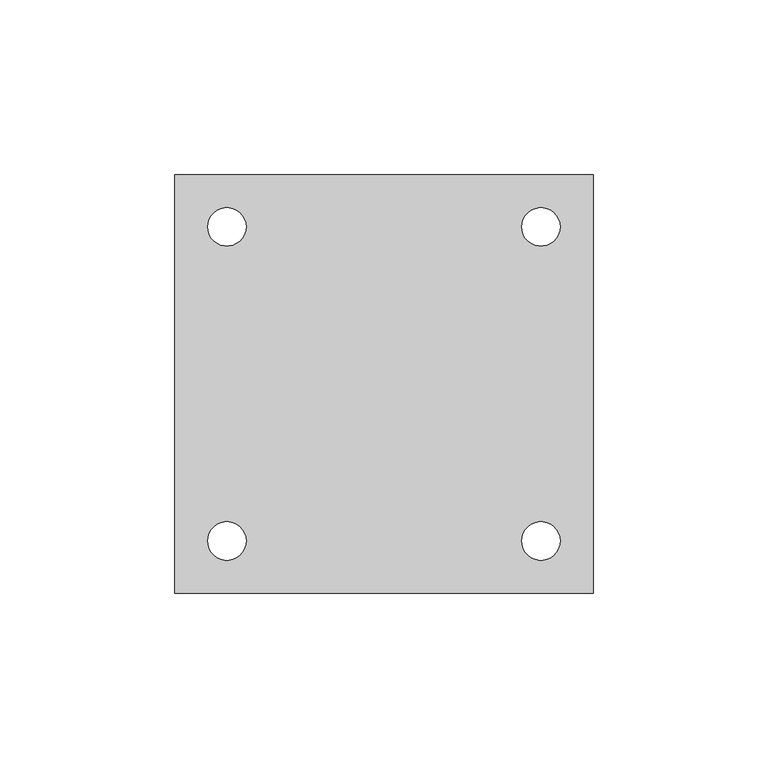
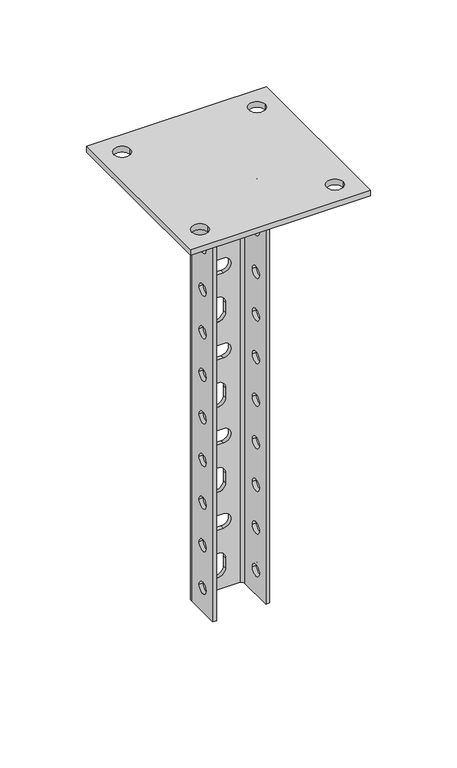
"""IFC4 building model written with IfcOpenShell, lengths in millimetres: proxy geometry, КМ Профиль_Универсальная потолочная стойка усиленная UPTU : UPTU300."""

from ifc_helpers import new_model, si_unit, point, frame, frame_2d, origin, place, context, project, spatial, polyline, circle_curve, trimmed, segment, composite_curve, outline, extrude, source, transform, mapped, element, save
from ifc_brep_helpers import plane_surface, cylinder_surface, revolved_surface, advanced_brep


def generic_models_0390d1ad(model_context):
    return source(origin(), model_context, "Body", "SolidModel", [
        advanced_brep(
        [(19.0, -14.5, -4.0), (19.0, 10.0, -4.0), (14.5, 14.5, -4.0), (-14.5, 14.5, -4.0), (-19.0, 10.0, -4.0), (-19.0, -14.5, -4.0), (-16.5, -14.5, -4.0), (-16.5, 10.0, -4.0), (-14.5, 12.0, -4.0), (14.5, 12.0, -4.0), (16.5, 10.0, -4.0), (16.5, -14.5, -4.0), (19.0, 10.0, -304.0), (19.0, -14.5, -304.0), (16.5, -14.5, -304.0), (16.5, 10.0, -304.0), (14.5, 12.0, -304.0), (-14.5, 12.0, -304.0), (-16.5, 10.0, -304.0), (-16.5, -14.5, -304.0), (-19.0, -14.5, -304.0), (-19.0, 10.0, -304.0), (-14.5, 14.5, -304.0), (14.5, 14.5, -304.0), (19.0, -7.0, -47.0), (19.0, 1.0, -47.0), (19.0, -7.0, -77.0), (19.0, 1.0, -77.0), (19.0, -7.0, -107.0), (19.0, 1.0, -107.0), (19.0, -7.0, -137.0), (19.0, 1.0, -137.0), (19.0, -7.0, -167.0), (19.0, 1.0, -167.0), (19.0, -7.0, -197.0), (19.0, 1.0, -197.0), (19.0, -7.0, -227.0), (19.0, 1.0, -227.0), (19.0, -7.0, -257.0), (19.0, 1.0, -257.0), (19.0, -7.0, -287.0), (19.0, 1.0, -287.0), (19.0, -7.0, -17.0), (19.0, 1.0, -17.0), (3.5, 14.5, -132.0), (-3.5, 14.5, -132.0), (-3.5, 14.5, -142.0), (3.5, 14.5, -142.0), (3.5, 14.5, -192.0), (-3.5, 14.5, -192.0), (-3.5, 14.5, -202.0), (3.5, 14.5, -202.0), (3.5, 14.5, -72.0), (-3.5, 14.5, -72.0), (-3.5, 14.5, -82.0), (3.5, 14.5, -82.0), (-5.0, 14.5, -103.5), (-5.0, 14.5, -110.5), (5.0, 14.5, -110.5), (5.0, 14.5, -103.5), (-5.0, 14.5, -163.5), (-5.0, 14.5, -170.5), (5.0, 14.5, -170.5), (5.0, 14.5, -163.5), (-5.0, 14.5, -223.5), (-5.0, 14.5, -230.5), (5.0, 14.5, -230.5), (5.0, 14.5, -223.5), (3.5, 14.5, -252.0), (-3.5, 14.5, -252.0), (-3.5, 14.5, -262.0), (3.5, 14.5, -262.0), (-5.0, 14.5, -283.5), (-5.0, 14.5, -290.5), (5.0, 14.5, -290.5), (5.0, 14.5, -283.5), (-5.0, 14.5, -43.5), (-5.0, 14.5, -50.5), (5.0, 14.5, -50.5), (5.0, 14.5, -43.5), (3.5, 14.5, -12.0), (-3.5, 14.5, -12.0), (-3.5, 14.5, -22.0), (3.5, 14.5, -22.0), (-19.0, -7.0, -17.0), (-19.0, 1.0, -17.0), (-19.0, -7.0, -47.0), (-19.0, 1.0, -47.0), (-19.0, -7.0, -77.0), (-19.0, 1.0, -77.0), (-19.0, -7.0, -107.0), (-19.0, 1.0, -107.0), (-19.0, -7.0, -137.0), (-19.0, 1.0, -137.0), (-19.0, -7.0, -167.0), (-19.0, 1.0, -167.0), (-19.0, -7.0, -197.0), (-19.0, 1.0, -197.0), (-19.0, -7.0, -227.0), (-19.0, 1.0, -227.0), (-19.0, -7.0, -257.0), (-19.0, 1.0, -257.0), (-19.0, -7.0, -287.0), (-19.0, 1.0, -287.0), (-16.5, 1.0, -17.0), (-16.5, -7.0, -17.0), (-16.5, 1.0, -47.0), (-16.5, -7.0, -47.0), (-16.5, 1.0, -77.0), (-16.5, -7.0, -77.0), (-16.5, 1.0, -107.0), (-16.5, -7.0, -107.0), (-16.5, 1.0, -137.0), (-16.5, -7.0, -137.0), (-16.5, 1.0, -167.0), (-16.5, -7.0, -167.0), (-16.5, 1.0, -197.0), (-16.5, -7.0, -197.0), (-16.5, 1.0, -227.0), (-16.5, -7.0, -227.0), (-16.5, 1.0, -257.0), (-16.5, -7.0, -257.0), (-16.5, 1.0, -287.0), (-16.5, -7.0, -287.0), (-3.5, 12.0, -132.0), (3.5, 12.0, -132.0), (3.5, 12.0, -142.0), (-3.5, 12.0, -142.0), (-3.5, 12.0, -192.0), (3.5, 12.0, -192.0), (3.5, 12.0, -202.0), (-3.5, 12.0, -202.0), (-3.5, 12.0, -72.0), (3.5, 12.0, -72.0), (3.5, 12.0, -82.0), (-3.5, 12.0, -82.0), (-5.0, 12.0, -110.5), (-5.0, 12.0, -103.5), (5.0, 12.0, -103.5), (5.0, 12.0, -110.5), (-5.0, 12.0, -170.5), (-5.0, 12.0, -163.5), (5.0, 12.0, -163.5), (5.0, 12.0, -170.5), (-5.0, 12.0, -230.5), (-5.0, 12.0, -223.5), (5.0, 12.0, -223.5), (5.0, 12.0, -230.5), (-3.5, 12.0, -252.0), (3.5, 12.0, -252.0), (3.5, 12.0, -262.0), (-3.5, 12.0, -262.0), (-5.0, 12.0, -290.5), (-5.0, 12.0, -283.5), (5.0, 12.0, -283.5), (5.0, 12.0, -290.5), (-5.0, 12.0, -50.5), (-5.0, 12.0, -43.5), (5.0, 12.0, -43.5), (5.0, 12.0, -50.5), (-3.5, 12.0, -12.0), (3.5, 12.0, -12.0), (3.5, 12.0, -22.0), (-3.5, 12.0, -22.0), (16.5, 1.0, -47.0), (16.5, -7.0, -47.0), (16.5, 1.0, -77.0), (16.5, -7.0, -77.0), (16.5, 1.0, -107.0), (16.5, -7.0, -107.0), (16.5, 1.0, -137.0), (16.5, -7.0, -137.0), (16.5, 1.0, -167.0), (16.5, -7.0, -167.0), (16.5, 1.0, -197.0), (16.5, -7.0, -197.0), (16.5, 1.0, -227.0), (16.5, -7.0, -227.0), (16.5, 1.0, -257.0), (16.5, -7.0, -257.0), (16.5, 1.0, -287.0), (16.5, -7.0, -287.0), (16.5, 1.0, -17.0), (16.5, -7.0, -17.0)],
        [
            (0, 1),
            (1, 2, circle_curve(frame((14.5, 10.0, -4.0), z_axis=(0.0, 0.0, 1.0), x_axis=(1.0, 0.0, 0.0)), 4.5)),
            (2, 3),
            (3, 4, circle_curve(frame((-14.5, 10.0, -4.0), z_axis=(0.0, 0.0, 1.0), x_axis=(1.0, 0.0, 0.0)), 4.5)),
            (4, 5),
            (5, 6),
            (6, 7),
            (7, 8, circle_curve(frame((-14.5, 10.0, -4.0), z_axis=(0.0, 0.0, -1.0), x_axis=(1.0, 0.0, 0.0)), 2.0)),
            (8, 9),
            (9, 10, circle_curve(frame((14.5, 10.0, -4.0), z_axis=(0.0, 0.0, -1.0), x_axis=(1.0, 0.0, 0.0)), 2.0)),
            (10, 11),
            (11, 0),
            (12, 13),
            (13, 14),
            (14, 15),
            (15, 16, circle_curve(frame((14.5, 10.0, -304.0), z_axis=(0.0, 0.0, 1.0), x_axis=(1.0, 0.0, 0.0)), 2.0)),
            (16, 17),
            (17, 18, circle_curve(frame((-14.5, 10.0, -304.0), z_axis=(0.0, 0.0, 1.0), x_axis=(1.0, 0.0, 0.0)), 2.0)),
            (18, 19),
            (19, 20),
            (20, 21),
            (21, 22, circle_curve(frame((-14.5, 10.0, -304.0), z_axis=(0.0, 0.0, -1.0), x_axis=(1.0, 0.0, 0.0)), 4.5)),
            (22, 23),
            (23, 12, circle_curve(frame((14.5, 10.0, -304.0), z_axis=(0.0, 0.0, -1.0), x_axis=(1.0, 0.0, 0.0)), 4.5)),
            (0, 13),
            (12, 1),
            (24, 25, circle_curve(frame((19.0, -3.0, -47.0), z_axis=(-1.0, 0.0, 0.0), x_axis=(0.0, -1.0, 0.0)), 4.0)),
            (25, 24, circle_curve(frame((19.0, -3.0, -47.0), z_axis=(-1.0, 0.0, 0.0), x_axis=(0.0, -1.0, 0.0)), 4.0)),
            (26, 27, circle_curve(frame((19.0, -3.0, -77.0), z_axis=(-1.0, 0.0, 0.0), x_axis=(0.0, -1.0, 0.0)), 4.0)),
            (27, 26, circle_curve(frame((19.0, -3.0, -77.0), z_axis=(-1.0, 0.0, 0.0), x_axis=(0.0, -1.0, 0.0)), 4.0)),
            (28, 29, circle_curve(frame((19.0, -3.0, -107.0), z_axis=(-1.0, 0.0, 0.0), x_axis=(0.0, -1.0, 0.0)), 4.0)),
            (29, 28, circle_curve(frame((19.0, -3.0, -107.0), z_axis=(-1.0, 0.0, 0.0), x_axis=(0.0, -1.0, 0.0)), 4.0)),
            (30, 31, circle_curve(frame((19.0, -3.0, -137.0), z_axis=(-1.0, 0.0, 0.0), x_axis=(0.0, -1.0, 0.0)), 4.0)),
            (31, 30, circle_curve(frame((19.0, -3.0, -137.0), z_axis=(-1.0, 0.0, 0.0), x_axis=(0.0, -1.0, 0.0)), 4.0)),
            (32, 33, circle_curve(frame((19.0, -3.0, -167.0), z_axis=(-1.0, 0.0, 0.0), x_axis=(0.0, -1.0, 0.0)), 4.0)),
            (33, 32, circle_curve(frame((19.0, -3.0, -167.0), z_axis=(-1.0, 0.0, 0.0), x_axis=(0.0, -1.0, 0.0)), 4.0)),
            (34, 35, circle_curve(frame((19.0, -3.0, -197.0), z_axis=(-1.0, 0.0, 0.0), x_axis=(0.0, -1.0, 0.0)), 4.0)),
            (35, 34, circle_curve(frame((19.0, -3.0, -197.0), z_axis=(-1.0, 0.0, 0.0), x_axis=(0.0, -1.0, 0.0)), 4.0)),
            (36, 37, circle_curve(frame((19.0, -3.0, -227.0), z_axis=(-1.0, 0.0, 0.0), x_axis=(0.0, -1.0, 0.0)), 4.0)),
            (37, 36, circle_curve(frame((19.0, -3.0, -227.0), z_axis=(-1.0, 0.0, 0.0), x_axis=(0.0, -1.0, 0.0)), 4.0)),
            (38, 39, circle_curve(frame((19.0, -3.0, -257.0), z_axis=(-1.0, 0.0, 0.0), x_axis=(0.0, -1.0, 0.0)), 4.0)),
            (39, 38, circle_curve(frame((19.0, -3.0, -257.0), z_axis=(-1.0, 0.0, 0.0), x_axis=(0.0, -1.0, 0.0)), 4.0)),
            (40, 41, circle_curve(frame((19.0, -3.0, -287.0), z_axis=(-1.0, 0.0, 0.0), x_axis=(0.0, -1.0, 0.0)), 4.0)),
            (41, 40, circle_curve(frame((19.0, -3.0, -287.0), z_axis=(-1.0, 0.0, 0.0), x_axis=(0.0, -1.0, 0.0)), 4.0)),
            (42, 43, circle_curve(frame((19.0, -3.0, -17.0), z_axis=(-1.0, 0.0, 0.0), x_axis=(0.0, -1.0, 0.0)), 4.0)),
            (43, 42, circle_curve(frame((19.0, -3.0, -17.0), z_axis=(-1.0, 0.0, 0.0), x_axis=(0.0, -1.0, 0.0)), 4.0)),
            (23, 2),
            (22, 3),
            (44, 45),
            (45, 46, circle_curve(frame((-3.5, 14.5, -137.0), z_axis=(0.0, -1.0, 0.0), x_axis=(-1.0, 0.0, 0.0)), 5.0)),
            (46, 47),
            (47, 44, circle_curve(frame((3.5, 14.5, -137.0), z_axis=(0.0, -1.0, 0.0), x_axis=(-1.0, 0.0, 0.0)), 5.0)),
            (48, 49),
            (49, 50, circle_curve(frame((-3.5, 14.5, -197.0), z_axis=(0.0, -1.0, 0.0), x_axis=(-1.0, 0.0, 0.0)), 5.0)),
            (50, 51),
            (51, 48, circle_curve(frame((3.5, 14.5, -197.0), z_axis=(0.0, -1.0, 0.0), x_axis=(-1.0, 0.0, 0.0)), 5.0)),
            (52, 53),
            (53, 54, circle_curve(frame((-3.5, 14.5, -77.0), z_axis=(0.0, -1.0, 0.0), x_axis=(-1.0, 0.0, 0.0)), 5.0)),
            (54, 55),
            (55, 52, circle_curve(frame((3.5, 14.5, -77.0), z_axis=(0.0, -1.0, 0.0), x_axis=(-1.0, 0.0, 0.0)), 5.0)),
            (56, 57),
            (57, 58, circle_curve(frame((0.0, 14.5, -110.5), z_axis=(0.0, -1.0, 0.0), x_axis=(0.0, 0.0, -1.0)), 5.0)),
            (58, 59),
            (59, 56, circle_curve(frame((0.0, 14.5, -103.5), z_axis=(0.0, -1.0, 0.0), x_axis=(0.0, 0.0, -1.0)), 5.0)),
            (60, 61),
            (61, 62, circle_curve(frame((0.0, 14.5, -170.5), z_axis=(0.0, -1.0, 0.0), x_axis=(0.0, 0.0, -1.0)), 5.0)),
            (62, 63),
            (63, 60, circle_curve(frame((0.0, 14.5, -163.5), z_axis=(0.0, -1.0, 0.0), x_axis=(0.0, 0.0, -1.0)), 5.0)),
            (64, 65),
            (65, 66, circle_curve(frame((0.0, 14.5, -230.5), z_axis=(0.0, -1.0, 0.0), x_axis=(0.0, 0.0, -1.0)), 5.0)),
            (66, 67),
            (67, 64, circle_curve(frame((0.0, 14.5, -223.5), z_axis=(0.0, -1.0, 0.0), x_axis=(0.0, 0.0, -1.0)), 5.0)),
            (68, 69),
            (69, 70, circle_curve(frame((-3.5, 14.5, -257.0), z_axis=(0.0, -1.0, 0.0), x_axis=(-1.0, 0.0, 0.0)), 5.0)),
            (70, 71),
            (71, 68, circle_curve(frame((3.5, 14.5, -257.0), z_axis=(0.0, -1.0, 0.0), x_axis=(-1.0, 0.0, 0.0)), 5.0)),
            (72, 73),
            (73, 74, circle_curve(frame((0.0, 14.5, -290.5), z_axis=(0.0, -1.0, 0.0), x_axis=(0.0, 0.0, -1.0)), 5.0)),
            (74, 75),
            (75, 72, circle_curve(frame((0.0, 14.5, -283.5), z_axis=(0.0, -1.0, 0.0), x_axis=(0.0, 0.0, -1.0)), 5.0)),
            (76, 77),
            (77, 78, circle_curve(frame((0.0, 14.5, -50.5), z_axis=(0.0, -1.0, 0.0), x_axis=(0.0, 0.0, -1.0)), 5.0)),
            (78, 79),
            (79, 76, circle_curve(frame((0.0, 14.5, -43.5), z_axis=(0.0, -1.0, 0.0), x_axis=(0.0, 0.0, -1.0)), 5.0)),
            (80, 81),
            (81, 82, circle_curve(frame((-3.5, 14.5, -17.0), z_axis=(0.0, -1.0, 0.0), x_axis=(-1.0, 0.0, 0.0)), 5.0)),
            (82, 83),
            (83, 80, circle_curve(frame((3.5, 14.5, -17.0), z_axis=(0.0, -1.0, 0.0), x_axis=(-1.0, 0.0, 0.0)), 5.0)),
            (21, 4),
            (20, 5),
            (84, 85, circle_curve(frame((-19.0, -3.0, -17.0), z_axis=(1.0, 0.0, 0.0), x_axis=(0.0, -1.0, 0.0)), 4.0)),
            (85, 84, circle_curve(frame((-19.0, -3.0, -17.0), z_axis=(1.0, 0.0, 0.0), x_axis=(0.0, -1.0, 0.0)), 4.0)),
            (86, 87, circle_curve(frame((-19.0, -3.0, -47.0), z_axis=(1.0, 0.0, 0.0), x_axis=(0.0, -1.0, 0.0)), 4.0)),
            (87, 86, circle_curve(frame((-19.0, -3.0, -47.0), z_axis=(1.0, 0.0, 0.0), x_axis=(0.0, -1.0, 0.0)), 4.0)),
            (88, 89, circle_curve(frame((-19.0, -3.0, -77.0), z_axis=(1.0, 0.0, 0.0), x_axis=(0.0, -1.0, 0.0)), 4.0)),
            (89, 88, circle_curve(frame((-19.0, -3.0, -77.0), z_axis=(1.0, 0.0, 0.0), x_axis=(0.0, -1.0, 0.0)), 4.0)),
            (90, 91, circle_curve(frame((-19.0, -3.0, -107.0), z_axis=(1.0, 0.0, 0.0), x_axis=(0.0, -1.0, 0.0)), 4.0)),
            (91, 90, circle_curve(frame((-19.0, -3.0, -107.0), z_axis=(1.0, 0.0, 0.0), x_axis=(0.0, -1.0, 0.0)), 4.0)),
            (92, 93, circle_curve(frame((-19.0, -3.0, -137.0), z_axis=(1.0, 0.0, 0.0), x_axis=(0.0, -1.0, 0.0)), 4.0)),
            (93, 92, circle_curve(frame((-19.0, -3.0, -137.0), z_axis=(1.0, 0.0, 0.0), x_axis=(0.0, -1.0, 0.0)), 4.0)),
            (94, 95, circle_curve(frame((-19.0, -3.0, -167.0), z_axis=(1.0, 0.0, 0.0), x_axis=(0.0, -1.0, 0.0)), 4.0)),
            (95, 94, circle_curve(frame((-19.0, -3.0, -167.0), z_axis=(1.0, 0.0, 0.0), x_axis=(0.0, -1.0, 0.0)), 4.0)),
            (96, 97, circle_curve(frame((-19.0, -3.0, -197.0), z_axis=(1.0, 0.0, 0.0), x_axis=(0.0, -1.0, 0.0)), 4.0)),
            (97, 96, circle_curve(frame((-19.0, -3.0, -197.0), z_axis=(1.0, 0.0, 0.0), x_axis=(0.0, -1.0, 0.0)), 4.0)),
            (98, 99, circle_curve(frame((-19.0, -3.0, -227.0), z_axis=(1.0, 0.0, 0.0), x_axis=(0.0, -1.0, 0.0)), 4.0)),
            (99, 98, circle_curve(frame((-19.0, -3.0, -227.0), z_axis=(1.0, 0.0, 0.0), x_axis=(0.0, -1.0, 0.0)), 4.0)),
            (100, 101, circle_curve(frame((-19.0, -3.0, -257.0), z_axis=(1.0, 0.0, 0.0), x_axis=(0.0, -1.0, 0.0)), 4.0)),
            (101, 100, circle_curve(frame((-19.0, -3.0, -257.0), z_axis=(1.0, 0.0, 0.0), x_axis=(0.0, -1.0, 0.0)), 4.0)),
            (102, 103, circle_curve(frame((-19.0, -3.0, -287.0), z_axis=(1.0, 0.0, 0.0), x_axis=(0.0, -1.0, 0.0)), 4.0)),
            (103, 102, circle_curve(frame((-19.0, -3.0, -287.0), z_axis=(1.0, 0.0, 0.0), x_axis=(0.0, -1.0, 0.0)), 4.0)),
            (19, 6),
            (18, 7),
            (104, 105, circle_curve(frame((-16.5, -3.0, -17.0), z_axis=(-1.0, 0.0, 0.0), x_axis=(0.0, -1.0, 0.0)), 4.0)),
            (105, 104, circle_curve(frame((-16.5, -3.0, -17.0), z_axis=(-1.0, 0.0, 0.0), x_axis=(0.0, -1.0, 0.0)), 4.0)),
            (106, 107, circle_curve(frame((-16.5, -3.0, -47.0), z_axis=(-1.0, 0.0, 0.0), x_axis=(0.0, -1.0, 0.0)), 4.0)),
            (107, 106, circle_curve(frame((-16.5, -3.0, -47.0), z_axis=(-1.0, 0.0, 0.0), x_axis=(0.0, -1.0, 0.0)), 4.0)),
            (108, 109, circle_curve(frame((-16.5, -3.0, -77.0), z_axis=(-1.0, 0.0, 0.0), x_axis=(0.0, -1.0, 0.0)), 4.0)),
            (109, 108, circle_curve(frame((-16.5, -3.0, -77.0), z_axis=(-1.0, 0.0, 0.0), x_axis=(0.0, -1.0, 0.0)), 4.0)),
            (110, 111, circle_curve(frame((-16.5, -3.0, -107.0), z_axis=(-1.0, 0.0, 0.0), x_axis=(0.0, -1.0, 0.0)), 4.0)),
            (111, 110, circle_curve(frame((-16.5, -3.0, -107.0), z_axis=(-1.0, 0.0, 0.0), x_axis=(0.0, -1.0, 0.0)), 4.0)),
            (112, 113, circle_curve(frame((-16.5, -3.0, -137.0), z_axis=(-1.0, 0.0, 0.0), x_axis=(0.0, -1.0, 0.0)), 4.0)),
            (113, 112, circle_curve(frame((-16.5, -3.0, -137.0), z_axis=(-1.0, 0.0, 0.0), x_axis=(0.0, -1.0, 0.0)), 4.0)),
            (114, 115, circle_curve(frame((-16.5, -3.0, -167.0), z_axis=(-1.0, 0.0, 0.0), x_axis=(0.0, -1.0, 0.0)), 4.0)),
            (115, 114, circle_curve(frame((-16.5, -3.0, -167.0), z_axis=(-1.0, 0.0, 0.0), x_axis=(0.0, -1.0, 0.0)), 4.0)),
            (116, 117, circle_curve(frame((-16.5, -3.0, -197.0), z_axis=(-1.0, 0.0, 0.0), x_axis=(0.0, -1.0, 0.0)), 4.0)),
            (117, 116, circle_curve(frame((-16.5, -3.0, -197.0), z_axis=(-1.0, 0.0, 0.0), x_axis=(0.0, -1.0, 0.0)), 4.0)),
            (118, 119, circle_curve(frame((-16.5, -3.0, -227.0), z_axis=(-1.0, 0.0, 0.0), x_axis=(0.0, -1.0, 0.0)), 4.0)),
            (119, 118, circle_curve(frame((-16.5, -3.0, -227.0), z_axis=(-1.0, 0.0, 0.0), x_axis=(0.0, -1.0, 0.0)), 4.0)),
            (120, 121, circle_curve(frame((-16.5, -3.0, -257.0), z_axis=(-1.0, 0.0, 0.0), x_axis=(0.0, -1.0, 0.0)), 4.0)),
            (121, 120, circle_curve(frame((-16.5, -3.0, -257.0), z_axis=(-1.0, 0.0, 0.0), x_axis=(0.0, -1.0, 0.0)), 4.0)),
            (122, 123, circle_curve(frame((-16.5, -3.0, -287.0), z_axis=(-1.0, 0.0, 0.0), x_axis=(0.0, -1.0, 0.0)), 4.0)),
            (123, 122, circle_curve(frame((-16.5, -3.0, -287.0), z_axis=(-1.0, 0.0, 0.0), x_axis=(0.0, -1.0, 0.0)), 4.0)),
            (17, 8),
            (16, 9),
            (124, 125),
            (125, 126, circle_curve(frame((3.5, 12.0, -137.0), z_axis=(0.0, 1.0, 0.0), x_axis=(-1.0, 0.0, 0.0)), 5.0)),
            (126, 127),
            (127, 124, circle_curve(frame((-3.5, 12.0, -137.0), z_axis=(0.0, 1.0, 0.0), x_axis=(-1.0, 0.0, 0.0)), 5.0)),
            (128, 129),
            (129, 130, circle_curve(frame((3.5, 12.0, -197.0), z_axis=(0.0, 1.0, 0.0), x_axis=(-1.0, 0.0, 0.0)), 5.0)),
            (130, 131),
            (131, 128, circle_curve(frame((-3.5, 12.0, -197.0), z_axis=(0.0, 1.0, 0.0), x_axis=(-1.0, 0.0, 0.0)), 5.0)),
            (132, 133),
            (133, 134, circle_curve(frame((3.5, 12.0, -77.0), z_axis=(0.0, 1.0, 0.0), x_axis=(-1.0, 0.0, 0.0)), 5.0)),
            (134, 135),
            (135, 132, circle_curve(frame((-3.5, 12.0, -77.0), z_axis=(0.0, 1.0, 0.0), x_axis=(-1.0, 0.0, 0.0)), 5.0)),
            (136, 137),
            (137, 138, circle_curve(frame((0.0, 12.0, -103.5), z_axis=(0.0, 1.0, 0.0), x_axis=(0.0, 0.0, -1.0)), 5.0)),
            (138, 139),
            (139, 136, circle_curve(frame((0.0, 12.0, -110.5), z_axis=(0.0, 1.0, 0.0), x_axis=(0.0, 0.0, -1.0)), 5.0)),
            (140, 141),
            (141, 142, circle_curve(frame((0.0, 12.0, -163.5), z_axis=(0.0, 1.0, 0.0), x_axis=(0.0, 0.0, -1.0)), 5.0)),
            (142, 143),
            (143, 140, circle_curve(frame((0.0, 12.0, -170.5), z_axis=(0.0, 1.0, 0.0), x_axis=(0.0, 0.0, -1.0)), 5.0)),
            (144, 145),
            (145, 146, circle_curve(frame((0.0, 12.0, -223.5), z_axis=(0.0, 1.0, 0.0), x_axis=(0.0, 0.0, -1.0)), 5.0)),
            (146, 147),
            (147, 144, circle_curve(frame((0.0, 12.0, -230.5), z_axis=(0.0, 1.0, 0.0), x_axis=(0.0, 0.0, -1.0)), 5.0)),
            (148, 149),
            (149, 150, circle_curve(frame((3.5, 12.0, -257.0), z_axis=(0.0, 1.0, 0.0), x_axis=(-1.0, 0.0, 0.0)), 5.0)),
            (150, 151),
            (151, 148, circle_curve(frame((-3.5, 12.0, -257.0), z_axis=(0.0, 1.0, 0.0), x_axis=(-1.0, 0.0, 0.0)), 5.0)),
            (152, 153),
            (153, 154, circle_curve(frame((0.0, 12.0, -283.5), z_axis=(0.0, 1.0, 0.0), x_axis=(0.0, 0.0, -1.0)), 5.0)),
            (154, 155),
            (155, 152, circle_curve(frame((0.0, 12.0, -290.5), z_axis=(0.0, 1.0, 0.0), x_axis=(0.0, 0.0, -1.0)), 5.0)),
            (156, 157),
            (157, 158, circle_curve(frame((0.0, 12.0, -43.5), z_axis=(0.0, 1.0, 0.0), x_axis=(0.0, 0.0, -1.0)), 5.0)),
            (158, 159),
            (159, 156, circle_curve(frame((0.0, 12.0, -50.5), z_axis=(0.0, 1.0, 0.0), x_axis=(0.0, 0.0, -1.0)), 5.0)),
            (160, 161),
            (161, 162, circle_curve(frame((3.5, 12.0, -17.0), z_axis=(0.0, 1.0, 0.0), x_axis=(-1.0, 0.0, 0.0)), 5.0)),
            (162, 163),
            (163, 160, circle_curve(frame((-3.5, 12.0, -17.0), z_axis=(0.0, 1.0, 0.0), x_axis=(-1.0, 0.0, 0.0)), 5.0)),
            (15, 10),
            (14, 11),
            (164, 165, circle_curve(frame((16.5, -3.0, -47.0), z_axis=(1.0, 0.0, 0.0), x_axis=(0.0, -1.0, 0.0)), 4.0)),
            (165, 164, circle_curve(frame((16.5, -3.0, -47.0), z_axis=(1.0, 0.0, 0.0), x_axis=(0.0, -1.0, 0.0)), 4.0)),
            (166, 167, circle_curve(frame((16.5, -3.0, -77.0), z_axis=(1.0, 0.0, 0.0), x_axis=(0.0, -1.0, 0.0)), 4.0)),
            (167, 166, circle_curve(frame((16.5, -3.0, -77.0), z_axis=(1.0, 0.0, 0.0), x_axis=(0.0, -1.0, 0.0)), 4.0)),
            (168, 169, circle_curve(frame((16.5, -3.0, -107.0), z_axis=(1.0, 0.0, 0.0), x_axis=(0.0, -1.0, 0.0)), 4.0)),
            (169, 168, circle_curve(frame((16.5, -3.0, -107.0), z_axis=(1.0, 0.0, 0.0), x_axis=(0.0, -1.0, 0.0)), 4.0)),
            (170, 171, circle_curve(frame((16.5, -3.0, -137.0), z_axis=(1.0, 0.0, 0.0), x_axis=(0.0, -1.0, 0.0)), 4.0)),
            (171, 170, circle_curve(frame((16.5, -3.0, -137.0), z_axis=(1.0, 0.0, 0.0), x_axis=(0.0, -1.0, 0.0)), 4.0)),
            (172, 173, circle_curve(frame((16.5, -3.0, -167.0), z_axis=(1.0, 0.0, 0.0), x_axis=(0.0, -1.0, 0.0)), 4.0)),
            (173, 172, circle_curve(frame((16.5, -3.0, -167.0), z_axis=(1.0, 0.0, 0.0), x_axis=(0.0, -1.0, 0.0)), 4.0)),
            (174, 175, circle_curve(frame((16.5, -3.0, -197.0), z_axis=(1.0, 0.0, 0.0), x_axis=(0.0, -1.0, 0.0)), 4.0)),
            (175, 174, circle_curve(frame((16.5, -3.0, -197.0), z_axis=(1.0, 0.0, 0.0), x_axis=(0.0, -1.0, 0.0)), 4.0)),
            (176, 177, circle_curve(frame((16.5, -3.0, -227.0), z_axis=(1.0, 0.0, 0.0), x_axis=(0.0, -1.0, 0.0)), 4.0)),
            (177, 176, circle_curve(frame((16.5, -3.0, -227.0), z_axis=(1.0, 0.0, 0.0), x_axis=(0.0, -1.0, 0.0)), 4.0)),
            (178, 179, circle_curve(frame((16.5, -3.0, -257.0), z_axis=(1.0, 0.0, 0.0), x_axis=(0.0, -1.0, 0.0)), 4.0)),
            (179, 178, circle_curve(frame((16.5, -3.0, -257.0), z_axis=(1.0, 0.0, 0.0), x_axis=(0.0, -1.0, 0.0)), 4.0)),
            (180, 181, circle_curve(frame((16.5, -3.0, -287.0), z_axis=(1.0, 0.0, 0.0), x_axis=(0.0, -1.0, 0.0)), 4.0)),
            (181, 180, circle_curve(frame((16.5, -3.0, -287.0), z_axis=(1.0, 0.0, 0.0), x_axis=(0.0, -1.0, 0.0)), 4.0)),
            (182, 183, circle_curve(frame((16.5, -3.0, -17.0), z_axis=(1.0, 0.0, 0.0), x_axis=(0.0, -1.0, 0.0)), 4.0)),
            (183, 182, circle_curve(frame((16.5, -3.0, -17.0), z_axis=(1.0, 0.0, 0.0), x_axis=(0.0, -1.0, 0.0)), 4.0)),
            (44, 125),
            (124, 45),
            (47, 126),
            (46, 127),
            (48, 129),
            (128, 49),
            (51, 130),
            (50, 131),
            (52, 133),
            (132, 53),
            (55, 134),
            (54, 135),
            (56, 137),
            (136, 57),
            (59, 138),
            (58, 139),
            (60, 141),
            (140, 61),
            (63, 142),
            (62, 143),
            (64, 145),
            (144, 65),
            (67, 146),
            (66, 147),
            (84, 105),
            (104, 85),
            (24, 165),
            (164, 25),
            (86, 107),
            (106, 87),
            (26, 167),
            (166, 27),
            (88, 109),
            (108, 89),
            (28, 169),
            (168, 29),
            (90, 111),
            (110, 91),
            (30, 171),
            (170, 31),
            (92, 113),
            (112, 93),
            (32, 173),
            (172, 33),
            (94, 115),
            (114, 95),
            (34, 175),
            (174, 35),
            (96, 117),
            (116, 97),
            (36, 177),
            (176, 37),
            (98, 119),
            (118, 99),
            (68, 149),
            (148, 69),
            (71, 150),
            (70, 151),
            (72, 153),
            (152, 73),
            (75, 154),
            (74, 155),
            (38, 179),
            (178, 39),
            (100, 121),
            (120, 101),
            (40, 181),
            (180, 41),
            (102, 123),
            (122, 103),
            (42, 183),
            (182, 43),
            (76, 157),
            (156, 77),
            (79, 158),
            (78, 159),
            (80, 161),
            (160, 81),
            (83, 162),
            (82, 163),
        ],
        [
            plane_surface(frame((19.0, 10.0, -4.0), z_axis=(0.0, 0.0, 1.0), x_axis=(0.0, 1.0, 0.0))),
            plane_surface(frame((19.0, 10.0, -304.0), z_axis=(0.0, 0.0, -1.0), x_axis=(0.0, -1.0, 0.0))),
            plane_surface(frame((19.0, -14.5, -4.0), z_axis=(1.0, 0.0, 0.0), x_axis=(0.0, 0.0, -1.0))),
            cylinder_surface(frame((14.5, 10.0, -304.0), z_axis=(0.0, 0.0, 1.0), x_axis=(1.0, 0.0, 0.0)), 4.5),
            plane_surface(frame((14.5, 14.5, -4.0), z_axis=(0.0, 1.0, 0.0), x_axis=(0.0, 0.0, -1.0))),
            cylinder_surface(frame((-14.5, 10.0, -304.0), z_axis=(0.0, 0.0, 1.0), x_axis=(1.0, 0.0, 0.0)), 4.5),
            plane_surface(frame((-19.0, 10.0, -4.0), z_axis=(-1.0, 0.0, 0.0), x_axis=(0.0, 0.0, -1.0))),
            plane_surface(frame((-19.0, -14.5, -4.0), z_axis=(0.0, -1.0, 0.0), x_axis=(0.0, 0.0, -1.0))),
            plane_surface(frame((-16.5, -14.5, -4.0), z_axis=(1.0, 0.0, 0.0), x_axis=(0.0, 0.0, -1.0))),
            revolved_surface(polyline([(-12.5, 10.0, -304.0), (-12.5, 10.0, -4.0)]), (-14.5, 10.0, -304.0), (0.0, 0.0, -1.0)),
            plane_surface(frame((-14.5, 12.0, -4.0), z_axis=(0.0, -1.0, 0.0), x_axis=(0.0, 0.0, -1.0))),
            revolved_surface(polyline([(16.5, 10.0, -304.0), (16.5, 10.0, -4.0)]), (14.5, 10.0, -304.0), (0.0, 0.0, -1.0)),
            plane_surface(frame((16.5, 10.0, -4.0), z_axis=(-1.0, 0.0, 0.0), x_axis=(0.0, 0.0, -1.0))),
            plane_surface(frame((16.5, -14.5, -4.0), z_axis=(0.0, -1.0, 0.0), x_axis=(0.0, 0.0, -1.0))),
            plane_surface(frame((-3.5, 14.5, -132.0), z_axis=(0.0, 0.0, -1.0), x_axis=(0.0, -1.0, 0.0))),
            revolved_surface(polyline([(-1.5, 14.5, -137.0), (-1.5, 12.0, -137.0)]), (3.5, 12.0, -137.0), (0.0, 1.0, 0.0)),
            plane_surface(frame((3.5, 14.5, -142.0), z_axis=(0.0, 0.0, 1.0), x_axis=(0.0, -1.0, 0.0))),
            revolved_surface(polyline([(-8.5, 14.5, -137.0), (-8.5, 12.0, -137.0)]), (-3.5, 12.0, -137.0), (0.0, 1.0, 0.0)),
            plane_surface(frame((-3.5, 14.5, -192.0), z_axis=(0.0, 0.0, -1.0), x_axis=(0.0, -1.0, 0.0))),
            revolved_surface(polyline([(-1.5, 14.5, -197.0), (-1.5, 12.0, -197.0)]), (3.5, 12.0, -197.0), (0.0, 1.0, 0.0)),
            plane_surface(frame((3.5, 14.5, -202.0), z_axis=(0.0, 0.0, 1.0), x_axis=(0.0, -1.0, 0.0))),
            revolved_surface(polyline([(-8.5, 14.5, -197.0), (-8.5, 12.0, -197.0)]), (-3.5, 12.0, -197.0), (0.0, 1.0, 0.0)),
            plane_surface(frame((-3.5, 14.5, -72.0), z_axis=(0.0, 0.0, -1.0), x_axis=(0.0, -1.0, 0.0))),
            revolved_surface(polyline([(-1.5, 14.5, -77.0), (-1.5, 12.0, -77.0)]), (3.5, 12.0, -77.0), (0.0, 1.0, 0.0)),
            plane_surface(frame((3.5, 14.5, -82.0), z_axis=(0.0, 0.0, 1.0), x_axis=(0.0, -1.0, 0.0))),
            revolved_surface(polyline([(-8.5, 14.5, -77.0), (-8.5, 12.0, -77.0)]), (-3.5, 12.0, -77.0), (0.0, 1.0, 0.0)),
            plane_surface(frame((-5.0, 14.5, -110.5), z_axis=(1.0, 0.0, 0.0), x_axis=(0.0, -1.0, 0.0))),
            revolved_surface(polyline([(0.0, 14.5, -108.5), (0.0, 12.0, -108.5)]), (0.0, 12.0, -103.5), (0.0, 1.0, 0.0)),
            plane_surface(frame((5.0, 14.5, -103.5), z_axis=(-1.0, 0.0, 0.0), x_axis=(0.0, -1.0, 0.0))),
            revolved_surface(polyline([(0.0, 14.5, -115.5), (0.0, 12.0, -115.5)]), (0.0, 12.0, -110.5), (0.0, 1.0, 0.0)),
            plane_surface(frame((-5.0, 14.5, -170.5), z_axis=(1.0, 0.0, 0.0), x_axis=(0.0, -1.0, 0.0))),
            revolved_surface(polyline([(0.0, 14.5, -168.5), (0.0, 12.0, -168.5)]), (0.0, 12.0, -163.5), (0.0, 1.0, 0.0)),
            plane_surface(frame((5.0, 14.5, -163.5), z_axis=(-1.0, 0.0, 0.0), x_axis=(0.0, -1.0, 0.0))),
            revolved_surface(polyline([(0.0, 14.5, -175.5), (0.0, 12.0, -175.5)]), (0.0, 12.0, -170.5), (0.0, 1.0, 0.0)),
            plane_surface(frame((-5.0, 14.5, -230.5), z_axis=(1.0, 0.0, 0.0), x_axis=(0.0, -1.0, 0.0))),
            revolved_surface(polyline([(0.0, 14.5, -228.5), (0.0, 12.0, -228.5)]), (0.0, 12.0, -223.5), (0.0, 1.0, 0.0)),
            plane_surface(frame((5.0, 14.5, -223.5), z_axis=(-1.0, 0.0, 0.0), x_axis=(0.0, -1.0, 0.0))),
            revolved_surface(polyline([(0.0, 14.5, -235.5), (0.0, 12.0, -235.5)]), (0.0, 12.0, -230.5), (0.0, 1.0, 0.0)),
            revolved_surface(polyline([(-19.0, -7.0, -17.0), (-16.5, -7.0, -17.0)]), (-16.5, -3.0, -17.0), (-1.0, 0.0, 0.0)),
            revolved_surface(polyline([(19.0, -7.0, -47.0), (16.5, -7.0, -47.0)]), (16.5, -3.0, -47.0), (1.0, 0.0, 0.0)),
            revolved_surface(polyline([(-19.0, -7.0, -47.0), (-16.5, -7.0, -47.0)]), (-16.5, -3.0, -47.0), (-1.0, 0.0, 0.0)),
            revolved_surface(polyline([(19.0, -7.0, -77.0), (16.5, -7.0, -77.0)]), (16.5, -3.0, -77.0), (1.0, 0.0, 0.0)),
            revolved_surface(polyline([(-19.0, -7.0, -77.0), (-16.5, -7.0, -77.0)]), (-16.5, -3.0, -77.0), (-1.0, 0.0, 0.0)),
            revolved_surface(polyline([(19.0, -7.0, -107.0), (16.5, -7.0, -107.0)]), (16.5, -3.0, -107.0), (1.0, 0.0, 0.0)),
            revolved_surface(polyline([(-19.0, -7.0, -107.0), (-16.5, -7.0, -107.0)]), (-16.5, -3.0, -107.0), (-1.0, 0.0, 0.0)),
            revolved_surface(polyline([(19.0, -7.0, -137.0), (16.5, -7.0, -137.0)]), (16.5, -3.0, -137.0), (1.0, 0.0, 0.0)),
            revolved_surface(polyline([(-19.0, -7.0, -137.0), (-16.5, -7.0, -137.0)]), (-16.5, -3.0, -137.0), (-1.0, 0.0, 0.0)),
            revolved_surface(polyline([(19.0, -7.0, -167.0), (16.5, -7.0, -167.0)]), (16.5, -3.0, -167.0), (1.0, 0.0, 0.0)),
            revolved_surface(polyline([(-19.0, -7.0, -167.0), (-16.5, -7.0, -167.0)]), (-16.5, -3.0, -167.0), (-1.0, 0.0, 0.0)),
            revolved_surface(polyline([(19.0, -7.0, -197.0), (16.5, -7.0, -197.0)]), (16.5, -3.0, -197.0), (1.0, 0.0, 0.0)),
            revolved_surface(polyline([(-19.0, -7.0, -197.0), (-16.5, -7.0, -197.0)]), (-16.5, -3.0, -197.0), (-1.0, 0.0, 0.0)),
            revolved_surface(polyline([(19.0, -7.0, -227.0), (16.5, -7.0, -227.0)]), (16.5, -3.0, -227.0), (1.0, 0.0, 0.0)),
            revolved_surface(polyline([(-19.0, -7.0, -227.0), (-16.5, -7.0, -227.0)]), (-16.5, -3.0, -227.0), (-1.0, 0.0, 0.0)),
            plane_surface(frame((-3.5, 14.5, -252.0), z_axis=(0.0, 0.0, -1.0), x_axis=(0.0, -1.0, 0.0))),
            revolved_surface(polyline([(-1.5, 14.5, -257.0), (-1.5, 12.0, -257.0)]), (3.5, 12.0, -257.0), (0.0, 1.0, 0.0)),
            plane_surface(frame((3.5, 14.5, -262.0), z_axis=(0.0, 0.0, 1.0), x_axis=(0.0, -1.0, 0.0))),
            revolved_surface(polyline([(-8.5, 14.5, -257.0), (-8.5, 12.0, -257.0)]), (-3.5, 12.0, -257.0), (0.0, 1.0, 0.0)),
            plane_surface(frame((-5.0, 14.5, -290.5), z_axis=(1.0, 0.0, 0.0), x_axis=(0.0, -1.0, 0.0))),
            revolved_surface(polyline([(0.0, 14.5, -288.5), (0.0, 12.0, -288.5)]), (0.0, 12.0, -283.5), (0.0, 1.0, 0.0)),
            plane_surface(frame((5.0, 14.5, -283.5), z_axis=(-1.0, 0.0, 0.0), x_axis=(0.0, -1.0, 0.0))),
            revolved_surface(polyline([(0.0, 14.5, -295.5), (0.0, 12.0, -295.5)]), (0.0, 12.0, -290.5), (0.0, 1.0, 0.0)),
            revolved_surface(polyline([(19.0, -7.0, -257.0), (16.5, -7.0, -257.0)]), (16.5, -3.0, -257.0), (1.0, 0.0, 0.0)),
            revolved_surface(polyline([(-19.0, -7.0, -257.0), (-16.5, -7.0, -257.0)]), (-16.5, -3.0, -257.0), (-1.0, 0.0, 0.0)),
            revolved_surface(polyline([(19.0, -7.0, -287.0), (16.5, -7.0, -287.0)]), (16.5, -3.0, -287.0), (1.0, 0.0, 0.0)),
            revolved_surface(polyline([(-19.0, -7.0, -287.0), (-16.5, -7.0, -287.0)]), (-16.5, -3.0, -287.0), (-1.0, 0.0, 0.0)),
            revolved_surface(polyline([(19.0, -7.0, -17.0), (16.5, -7.0, -17.0)]), (16.5, -3.0, -17.0), (1.0, 0.0, 0.0)),
            plane_surface(frame((-5.0, 14.5, -50.5), z_axis=(1.0, 0.0, 0.0), x_axis=(0.0, -1.0, 0.0))),
            revolved_surface(polyline([(0.0, 14.5, -48.5), (0.0, 12.0, -48.5)]), (0.0, 12.0, -43.5), (0.0, 1.0, 0.0)),
            plane_surface(frame((5.0, 14.5, -43.5), z_axis=(-1.0, 0.0, 0.0), x_axis=(0.0, -1.0, 0.0))),
            revolved_surface(polyline([(0.0, 14.5, -55.5), (0.0, 12.0, -55.5)]), (0.0, 12.0, -50.5), (0.0, 1.0, 0.0)),
            plane_surface(frame((-3.5, 14.5, -12.0), z_axis=(0.0, 0.0, -1.0), x_axis=(0.0, -1.0, 0.0))),
            revolved_surface(polyline([(-1.5, 14.5, -17.0), (-1.5, 12.0, -17.0)]), (3.5, 12.0, -17.0), (0.0, 1.0, 0.0)),
            plane_surface(frame((3.5, 14.5, -22.0), z_axis=(0.0, 0.0, 1.0), x_axis=(0.0, -1.0, 0.0))),
            revolved_surface(polyline([(-8.5, 14.5, -17.0), (-8.5, 12.0, -17.0)]), (-3.5, 12.0, -17.0), (0.0, 1.0, 0.0)),
        ],
        [
            (0, [[1, 2, 3, 4, 5, 6, 7, 8, 9, 10, 11, 12]]),
            (1, [[13, 14, 15, 16, 17, 18, 19, 20, 21, 22, 23, 24]]),
            (2, [[-1, 25, -13, 26], [27, 28], [29, 30], [31, 32], [33, 34], [35, 36], [37, 38], [39, 40], [41, 42], [43, 44], [45, 46]]),
            (3, [[-2, -26, -24, 47]]),
            (4, [[-3, -47, -23, 48], [49, 50, 51, 52], [53, 54, 55, 56], [57, 58, 59, 60], [61, 62, 63, 64], [65, 66, 67, 68], [69, 70, 71, 72], [73, 74, 75, 76], [77, 78, 79, 80], [81, 82, 83, 84], [85, 86, 87, 88]]),
            (5, [[-4, -48, -22, 89]]),
            (6, [[-5, -89, -21, 90], [91, 92], [93, 94], [95, 96], [97, 98], [99, 100], [101, 102], [103, 104], [105, 106], [107, 108], [109, 110]]),
            (7, [[-6, -90, -20, 111]]),
            (8, [[-7, -111, -19, 112], [113, 114], [115, 116], [117, 118], [119, 120], [121, 122], [123, 124], [125, 126], [127, 128], [129, 130], [131, 132]]),
            (9, [[-8, -112, -18, 133]]),
            (10, [[-9, -133, -17, 134], [135, 136, 137, 138], [139, 140, 141, 142], [143, 144, 145, 146], [147, 148, 149, 150], [151, 152, 153, 154], [155, 156, 157, 158], [159, 160, 161, 162], [163, 164, 165, 166], [167, 168, 169, 170], [171, 172, 173, 174]]),
            (11, [[-10, -134, -16, 175]]),
            (12, [[-11, -175, -15, 176], [177, 178], [179, 180], [181, 182], [183, 184], [185, 186], [187, 188], [189, 190], [191, 192], [193, 194], [195, 196]]),
            (13, [[-12, -176, -14, -25]]),
            (14, [[197, -135, 198, -49]]),
            (15, [[-197, -52, 199, -136]]),
            (16, [[-199, -51, 200, -137]]),
            (17, [[-198, -138, -200, -50]]),
            (18, [[201, -139, 202, -53]]),
            (19, [[-201, -56, 203, -140]]),
            (20, [[-203, -55, 204, -141]]),
            (21, [[-202, -142, -204, -54]]),
            (22, [[205, -143, 206, -57]]),
            (23, [[-205, -60, 207, -144]]),
            (24, [[-207, -59, 208, -145]]),
            (25, [[-206, -146, -208, -58]]),
            (26, [[209, -147, 210, -61]]),
            (27, [[-209, -64, 211, -148]]),
            (28, [[-211, -63, 212, -149]]),
            (29, [[-210, -150, -212, -62]]),
            (30, [[213, -151, 214, -65]]),
            (31, [[-213, -68, 215, -152]]),
            (32, [[-215, -67, 216, -153]]),
            (33, [[-214, -154, -216, -66]]),
            (34, [[217, -155, 218, -69]]),
            (35, [[-217, -72, 219, -156]]),
            (36, [[-219, -71, 220, -157]]),
            (37, [[-218, -158, -220, -70]]),
            (38, [[221, -113, 222, -91]]),
            (38, [[-221, -92, -222, -114]]),
            (39, [[223, -177, 224, -27]]),
            (39, [[-223, -28, -224, -178]]),
            (40, [[225, -115, 226, -93]]),
            (40, [[-225, -94, -226, -116]]),
            (41, [[227, -179, 228, -29]]),
            (41, [[-227, -30, -228, -180]]),
            (42, [[229, -117, 230, -95]]),
            (42, [[-229, -96, -230, -118]]),
            (43, [[231, -181, 232, -31]]),
            (43, [[-231, -32, -232, -182]]),
            (44, [[233, -119, 234, -97]]),
            (44, [[-233, -98, -234, -120]]),
            (45, [[235, -183, 236, -33]]),
            (45, [[-235, -34, -236, -184]]),
            (46, [[237, -121, 238, -99]]),
            (46, [[-237, -100, -238, -122]]),
            (47, [[239, -185, 240, -35]]),
            (47, [[-239, -36, -240, -186]]),
            (48, [[241, -123, 242, -101]]),
            (48, [[-241, -102, -242, -124]]),
            (49, [[243, -187, 244, -37]]),
            (49, [[-243, -38, -244, -188]]),
            (50, [[245, -125, 246, -103]]),
            (50, [[-245, -104, -246, -126]]),
            (51, [[247, -189, 248, -39]]),
            (51, [[-247, -40, -248, -190]]),
            (52, [[249, -127, 250, -105]]),
            (52, [[-249, -106, -250, -128]]),
            (53, [[251, -159, 252, -73]]),
            (54, [[-251, -76, 253, -160]]),
            (55, [[-253, -75, 254, -161]]),
            (56, [[-252, -162, -254, -74]]),
            (57, [[255, -163, 256, -77]]),
            (58, [[-255, -80, 257, -164]]),
            (59, [[-257, -79, 258, -165]]),
            (60, [[-256, -166, -258, -78]]),
            (61, [[259, -191, 260, -41]]),
            (61, [[-259, -42, -260, -192]]),
            (62, [[261, -129, 262, -107]]),
            (62, [[-261, -108, -262, -130]]),
            (63, [[263, -193, 264, -43]]),
            (63, [[-263, -44, -264, -194]]),
            (64, [[265, -131, 266, -109]]),
            (64, [[-265, -110, -266, -132]]),
            (65, [[267, -195, 268, -45]]),
            (65, [[-267, -46, -268, -196]]),
            (66, [[269, -167, 270, -81]]),
            (67, [[-269, -84, 271, -168]]),
            (68, [[-271, -83, 272, -169]]),
            (69, [[-270, -170, -272, -82]]),
            (70, [[273, -171, 274, -85]]),
            (71, [[-273, -88, 275, -172]]),
            (72, [[-275, -87, 276, -173]]),
            (73, [[-274, -174, -276, -86]]),
        ],
    ),
        extrude(outline(polyline([(-60.0, 60.0), (60.0, 60.0), (60.0, -60.0), (-60.0, -60.0), (-60.0, 60.0)]), holes=[composite_curve([segment(trimmed(circle_curve(frame_2d((-45.0, 45.0)), 5.5), [point((-50.5, 45.0))], [point((-39.5, 45.0))], True, "CARTESIAN"), True, "CONTINUOUS"), segment(trimmed(circle_curve(frame_2d((-45.0, 45.0)), 5.5), [point((-39.5, 45.0))], [point((-50.5, 45.0))], True, "CARTESIAN"), True, "CONTINUOUS")], self_intersect=False), composite_curve([segment(trimmed(circle_curve(frame_2d((45.0, 45.0)), 5.5), [point((39.5, 45.0))], [point((50.5, 45.0))], True, "CARTESIAN"), True, "CONTINUOUS"), segment(trimmed(circle_curve(frame_2d((45.0, 45.0)), 5.5), [point((50.5, 45.0))], [point((39.5, 45.0))], True, "CARTESIAN"), True, "CONTINUOUS")], self_intersect=False), composite_curve([segment(trimmed(circle_curve(frame_2d((45.0, -45.0)), 5.5), [point((39.5, -45.0))], [point((50.5, -45.0))], True, "CARTESIAN"), True, "CONTINUOUS"), segment(trimmed(circle_curve(frame_2d((45.0, -45.0)), 5.5), [point((50.5, -45.0))], [point((39.5, -45.0))], True, "CARTESIAN"), True, "CONTINUOUS")], self_intersect=False), composite_curve([segment(trimmed(circle_curve(frame_2d((-45.0, -45.0)), 5.5), [point((-50.5, -45.0))], [point((-39.5, -45.0))], True, "CARTESIAN"), True, "CONTINUOUS"), segment(trimmed(circle_curve(frame_2d((-45.0, -45.0)), 5.5), [point((-39.5, -45.0))], [point((-50.5, -45.0))], True, "CARTESIAN"), True, "CONTINUOUS")], self_intersect=False)]), frame((0.0, 0.0, -4.0), z_axis=(0.0, 0.0, 1.0), x_axis=(1.0, 0.0, 0.0)), (0.0, 0.0, 1.0), 4.0),
    ])


if __name__ == "__main__":
    model = new_model("IFC4")
    model_context = context("Model", 3, world=origin())
    ifc_project = project(units=[si_unit("LENGTHUNIT", "METRE", prefix="MILLI")], contexts=[model_context])
    site = spatial("IfcSite", under=ifc_project)
    building = spatial("IfcBuilding", under=site)
    placement = place(None, origin())
    generic_models_shape = generic_models_0390d1ad(model_context)
    element("IfcBuildingElementProxy", 1, Name="КМ Профиль_Универсальная потолочная стойка усиленная UPTU : UPTU300", ObjectType="КМ Профиль_Универсальная потолочная стойка усиленная UPTU : UPTU300", at=placement, inside=building, context=model_context, shape_type="MappedRepresentation", body=[
        mapped(generic_models_shape, transform((0.0, 0.0, 0.0), x_axis=(1.0, 0.0, 0.0), y_axis=(0.0, 1.0, 0.0), z_axis=(0.0, 0.0, 1.0))),
    ])
    save(model, "model.ifc")
